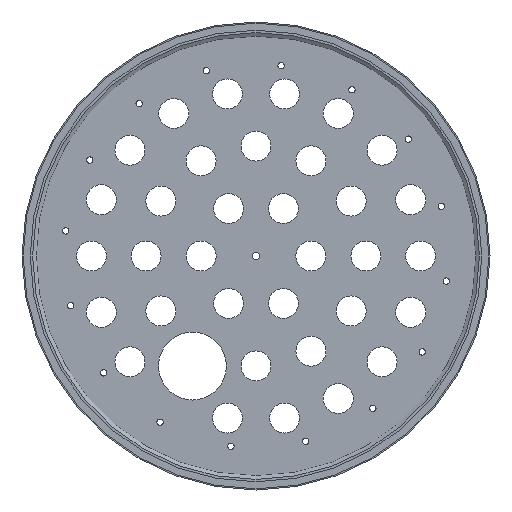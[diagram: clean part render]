
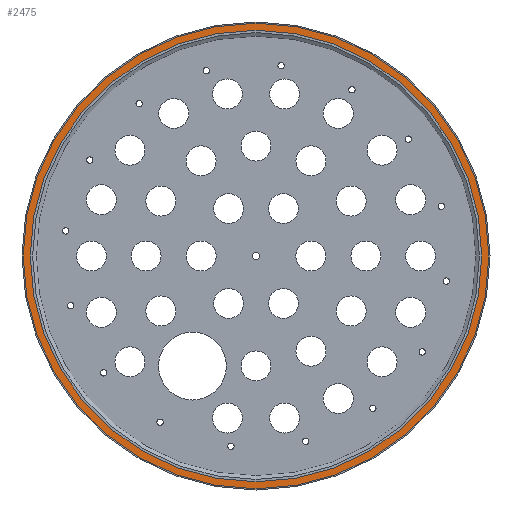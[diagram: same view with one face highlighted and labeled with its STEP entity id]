
A CAD part, front view. The second image highlights one B-rep face of the part: STEP entity #2475.
In plain terms, the highlighted planar face has unit normal (0, -1, 0).
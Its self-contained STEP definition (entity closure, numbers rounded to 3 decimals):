
#237 = FACE_BOUND ( 'NONE', #5007, .T. ) ;
#299 = DIRECTION ( 'NONE',  ( 0., 0., 1. ) ) ;
#469 = VERTEX_POINT ( 'NONE', #3230 ) ;
#514 = ORIENTED_EDGE ( 'NONE', *, *, #995, .T. ) ;
#935 = DIRECTION ( 'NONE',  ( 0., 1., 0. ) ) ;
#995 = EDGE_CURVE ( 'NONE', #5068, #4133, #3609, .T. ) ;
#1020 = AXIS2_PLACEMENT_3D ( 'NONE', #3834, #1629, #5677 ) ;
#1414 = AXIS2_PLACEMENT_3D ( 'NONE', #5336, #3019, #4881 ) ;
#1523 = EDGE_LOOP ( 'NONE', ( #2089, #3017 ) ) ;
#1629 = DIRECTION ( 'NONE',  ( 0., 1., 0. ) ) ;
#2089 = ORIENTED_EDGE ( 'NONE', *, *, #5815, .F. ) ;
#2475 = ADVANCED_FACE ( 'NONE', ( #3005, #237 ), #5344, .F. ) ;
#2602 = VERTEX_POINT ( 'NONE', #5526 ) ;
#2630 = CARTESIAN_POINT ( 'NONE',  ( 98.75, -2.2, 0. ) ) ;
#2732 = AXIS2_PLACEMENT_3D ( 'NONE', #5104, #935, #2785 ) ;
#2766 = CIRCLE ( 'NONE', #1414, 95.75 ) ;
#2785 = DIRECTION ( 'NONE',  ( 0., 0., 1. ) ) ;
#3005 = FACE_OUTER_BOUND ( 'NONE', #1523, .T. ) ;
#3017 = ORIENTED_EDGE ( 'NONE', *, *, #3170, .F. ) ;
#3019 = DIRECTION ( 'NONE',  ( 0., 1., 0. ) ) ;
#3129 = CARTESIAN_POINT ( 'NONE',  ( 0., -2.2, 0. ) ) ;
#3170 = EDGE_CURVE ( 'NONE', #469, #2602, #4608, .T. ) ;
#3186 = EDGE_CURVE ( 'NONE', #4133, #5068, #2766, .T. ) ;
#3230 = CARTESIAN_POINT ( 'NONE',  ( 0., -2.2, -98.75 ) ) ;
#3574 = CIRCLE ( 'NONE', #4151, 98.75 ) ;
#3609 = CIRCLE ( 'NONE', #2732, 95.75 ) ;
#3834 = CARTESIAN_POINT ( 'NONE',  ( 0., -2.2, 0. ) ) ;
#4133 = VERTEX_POINT ( 'NONE', #4160 ) ;
#4151 = AXIS2_PLACEMENT_3D ( 'NONE', #3129, #4460, #299 ) ;
#4160 = CARTESIAN_POINT ( 'NONE',  ( 0., -2.2, -95.75 ) ) ;
#4425 = CARTESIAN_POINT ( 'NONE',  ( 0., -2.2, 95.75 ) ) ;
#4460 = DIRECTION ( 'NONE',  ( 0., 1., 0. ) ) ;
#4487 = DIRECTION ( 'NONE',  ( 0., 1., 0. ) ) ;
#4608 = CIRCLE ( 'NONE', #1020, 98.75 ) ;
#4881 = DIRECTION ( 'NONE',  ( 0., 0., 1. ) ) ;
#4990 = AXIS2_PLACEMENT_3D ( 'NONE', #2630, #4487, #5801 ) ;
#5007 = EDGE_LOOP ( 'NONE', ( #514, #5438 ) ) ;
#5068 = VERTEX_POINT ( 'NONE', #4425 ) ;
#5104 = CARTESIAN_POINT ( 'NONE',  ( 0., -2.2, 0. ) ) ;
#5336 = CARTESIAN_POINT ( 'NONE',  ( 0., -2.2, 0. ) ) ;
#5344 = PLANE ( 'NONE',  #4990 ) ;
#5438 = ORIENTED_EDGE ( 'NONE', *, *, #3186, .T. ) ;
#5526 = CARTESIAN_POINT ( 'NONE',  ( 0., -2.2, 98.75 ) ) ;
#5677 = DIRECTION ( 'NONE',  ( 0., 0., 1. ) ) ;
#5801 = DIRECTION ( 'NONE',  ( 0., 0., 1. ) ) ;
#5815 = EDGE_CURVE ( 'NONE', #2602, #469, #3574, .T. ) ;
